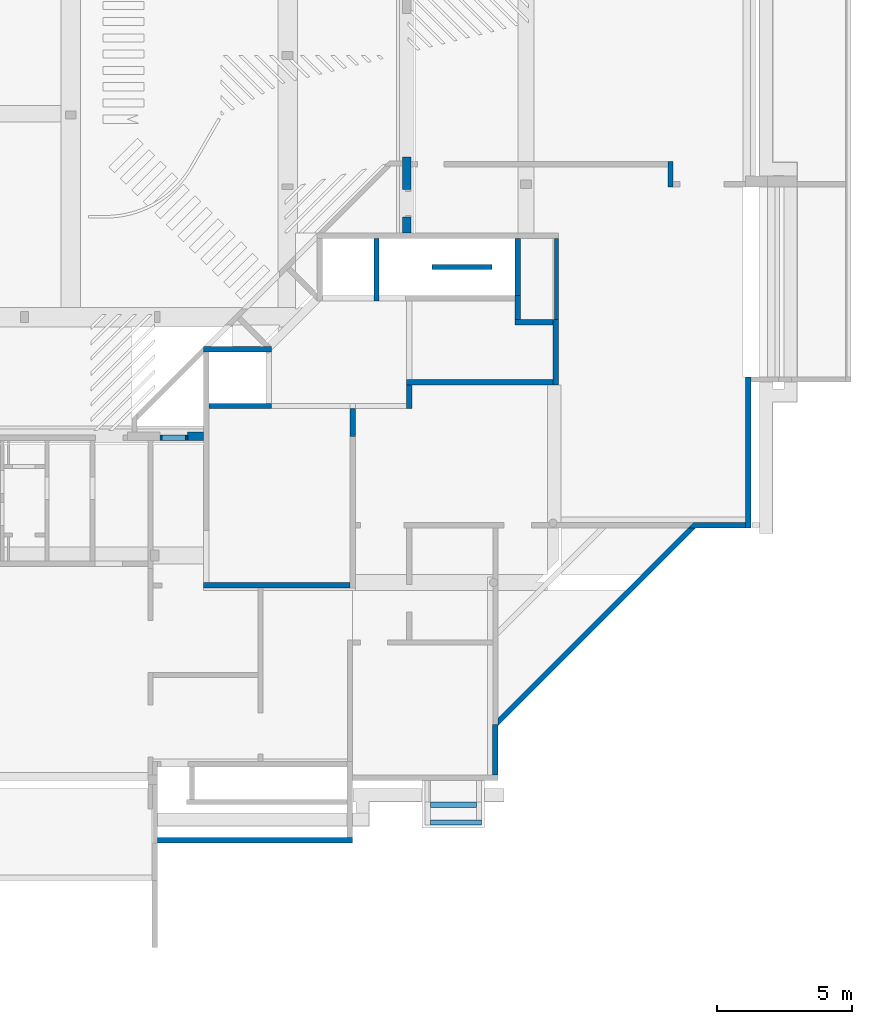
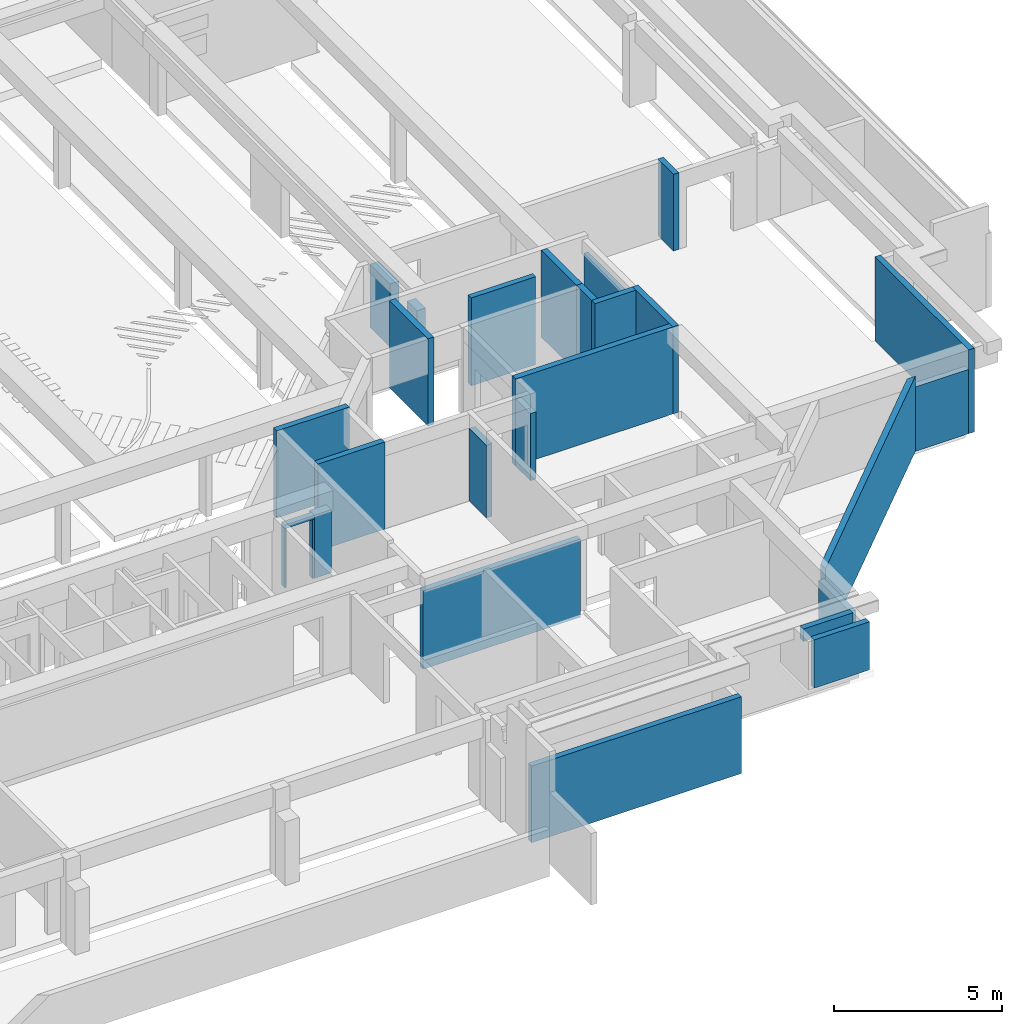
# One storey, part 8 of 22: 27 walls.
"""IFC4X3_ADD2 building model written with IfcOpenShell, lengths in millimetres."""

from ifc_helpers import new_model, si_unit, direction, frame, frame_2d, origin_with_axes, origin_2d_with_axis, place, context, subcontext, project, spatial, polyline, rectangle, outline, extrude, material, type_object, element, save


model = new_model("IFC4X3_ADD2")

# Units and contexts
model_context = context("Model", 3, precision=1e-05, world=origin_with_axes(), true_north=direction((0.0, 1.0)))
body_context = subcontext(model_context, "Body", "Model", "MODEL_VIEW")
ifc_project = project(units=[si_unit("LENGTHUNIT", "METRE", prefix="MILLI"), si_unit("AREAUNIT", "SQUARE_METRE"), si_unit("VOLUMEUNIT", "CUBIC_METRE"), si_unit("PLANEANGLEUNIT", "RADIAN"), si_unit("TIMEUNIT", "SECOND"), si_unit("MASSUNIT", "GRAM")], contexts=[model_context])

# Site, building, storey
site_placement = place(None, origin_with_axes())
site = spatial("IfcSite", under=ifc_project, at=site_placement, Name="Site", CompositionType="ELEMENT")
building_placement = place(site_placement, origin_with_axes())
building = spatial("IfcBuilding", under=site, at=building_placement, Name="IFC Building Story")
storey_placement = place(building_placement, frame((0.0, 0.0, -3240.0), z_axis=(0.0, 0.0, 1.0), x_axis=(1.0, 0.0, 0.0)))
storey = spatial("IfcBuildingStorey", under=building, at=storey_placement, Name="K10", Elevation=-3240.0)

# Walls
ifc_material_1 = material(Name="BB_Beton_Bestaand")
wall_type_1 = type_object("IfcWallType", Name="BB_Beton_Bestaand 200", PredefinedType="NOTDEFINED", material=ifc_material_1)
wall_1_placement = place(storey_placement, origin_with_axes())
element("IfcWall", 1, at=wall_1_placement, inside=storey, type_object=wall_type_1, Name="Basic Wall:BB_XX_Wand uit beton, 200 mm", ObjectType="Basic Wall:BB_XX_Wand uit beton, 200 mm", PredefinedType="SOLIDWALL", context=body_context, shape_type="SweptSolid", body=[
    extrude(rectangle(XDim=7205.0, YDim=200.0, at=origin_2d_with_axis()), frame((-18202.5, -2305.0, -200.0), z_axis=(0.0, 0.0, 1.0), x_axis=(1.0, 0.0, 0.0)), (0.0, 0.0, 1.0), 2780.0),
])
wall_2_placement = place(storey_placement, origin_with_axes())
element("IfcWall", 2, at=wall_2_placement, inside=storey, type_object=wall_type_1, Name="Basic Wall:BB_XX_Wand uit beton, 200 mm", ObjectType="Basic Wall:BB_XX_Wand uit beton, 200 mm", PredefinedType="SOLIDWALL", context=body_context, shape_type="SweptSolid", body=[
    extrude(rectangle(XDim=1872.40981921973, YDim=200.0, at=frame_2d((0.0, 0.0), x_axis=(0.0, 1.0))), frame((-9335.0, 1031.204909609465, 0.0), z_axis=(0.0, 0.0, 1.0), x_axis=(1.0, 0.0, 0.0)), (0.0, 0.0, 1.0), 2340.0),
])
wall_3_placement = place(storey_placement, origin_with_axes())
element("IfcWall", 3, at=wall_3_placement, inside=storey, type_object=wall_type_1, Name="Basic Wall:BB_XX_Wand uit beton, 200 mm", ObjectType="Basic Wall:BB_XX_Wand uit beton, 200 mm", PredefinedType="SOLIDWALL", context=body_context, shape_type="SweptSolid", body=[
    extrude(rectangle(XDim=5580.00000000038, YDim=200.0, at=frame_2d((0.0, 0.0), x_axis=(0.0, 1.0))), frame((5.0, 12004.99999999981, 0.0), z_axis=(0.0, 0.0, 1.0), x_axis=(1.0, 0.0, 0.0)), (0.0, 0.0, 1.0), 3040.0),
])
wall_4_placement = place(storey_placement, origin_with_axes())
element("IfcWall", 4, at=wall_4_placement, inside=storey, type_object=wall_type_1, Name="Basic Wall:BB_XX_Wand uit beton, 200 mm", ObjectType="Basic Wall:BB_XX_Wand uit beton, 200 mm", PredefinedType="SOLIDWALL", context=body_context, shape_type="SweptSolid", body=[
    extrude(outline(polyline([(-906.9155877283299, 100.0), (1006.91558772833, 100.0), (1006.91558772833, -100.0000000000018), (-1106.91558772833, -100.0), (-906.9155877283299, 100.0)])), frame((-1101.91558772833, 9315.0, 0.0), z_axis=(0.0, 0.0, 1.0), x_axis=(1.0, 0.0, 0.0)), (0.0, 0.0, 1.0), 2340.0),
])
wall_5_placement = place(storey_placement, origin_with_axes())
element("IfcWall", 5, at=wall_5_placement, inside=storey, type_object=wall_type_1, Name="Basic Wall:BB_XX_Wand uit beton, 200 mm", ObjectType="Basic Wall:BB_XX_Wand uit beton, 200 mm", PredefinedType="SOLIDWALL", context=body_context, shape_type="SweptSolid", body=[
    extrude(rectangle(XDim=2399.99999999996, YDim=199.9999999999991, at=frame_2d((0.0, 0.0), x_axis=(0.0, 1.0))), frame((-7100.0, 15699.99999999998, 0.0), z_axis=(0.0, 0.0, 1.0), x_axis=(1.0, 0.0, 0.0)), (0.0, 0.0, 1.0), 3160.0),
])
wall_6_placement = place(storey_placement, origin_with_axes())
element("IfcWall", 6, at=wall_6_placement, inside=storey, type_object=wall_type_1, Name="Basic Wall:BB_XX_Wand uit beton, 200 mm", ObjectType="Basic Wall:BB_XX_Wand uit beton, 200 mm", PredefinedType="SOLIDWALL", context=body_context, shape_type="SweptSolid", body=[
    extrude(rectangle(XDim=1399.99999999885, YDim=200.0, at=origin_2d_with_axis()), frame((-7899.999999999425, 16800.0, 0.0), z_axis=(0.0, 0.0, 1.0), x_axis=(1.0, 0.0, 0.0)), (0.0, 0.0, 1.0), 3160.0),
])
wall_7_placement = place(storey_placement, origin_with_axes())
element("IfcWall", 7, at=wall_7_placement, inside=storey, type_object=wall_type_1, Name="Basic Wall:BB_XX_Wand uit beton, 200 mm", ObjectType="Basic Wall:BB_XX_Wand uit beton, 200 mm", PredefinedType="SOLIDWALL", context=body_context, shape_type="SweptSolid", body=[
    extrude(rectangle(XDim=899.9999999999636, YDim=200.0, at=frame_2d((0.0, 0.0), x_axis=(0.0, 1.0))), frame((-8500.0, 17349.99999999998, 0.0), z_axis=(0.0, 0.0, 1.0), x_axis=(1.0, 0.0, 0.0)), (0.0, 0.0, 1.0), 3160.0),
])
wall_8_placement = place(storey_placement, origin_with_axes())
element("IfcWall", 8, at=wall_8_placement, inside=storey, type_object=wall_type_1, Name="Basic Wall:BB_XX_Wand uit beton, 200 mm", ObjectType="Basic Wall:BB_XX_Wand uit beton, 200 mm", PredefinedType="SOLIDWALL", context=body_context, shape_type="SweptSolid", body=[
    extrude(rectangle(XDim=5399.999999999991, YDim=199.9999999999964, at=origin_2d_with_axis()), frame((-9899.999999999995, 14600.0, 0.0), z_axis=(0.0, 0.0, 1.0), x_axis=(1.0, 0.0, 0.0)), (0.0, 0.0, 1.0), 3160.0),
])
wall_9_placement = place(storey_placement, origin_with_axes())
element("IfcWall", 9, at=wall_9_placement, inside=storey, type_object=wall_type_1, Name="Basic Wall:BB_XX_Wand uit beton, 200 mm", ObjectType="Basic Wall:BB_XX_Wand uit beton, 200 mm", PredefinedType="SOLIDWALL", context=body_context, shape_type="SweptSolid", body=[
    extrude(rectangle(XDim=2499.999999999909, YDim=199.9999999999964, at=origin_2d_with_axis()), frame((-18850.00000000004, 15815.0, 0.0), z_axis=(0.0, 0.0, 1.0), x_axis=(1.0, 0.0, 0.0)), (0.0, 0.0, 1.0), 3160.0),
])
wall_10_placement = place(storey_placement, origin_with_axes())
element("IfcWall", 10, at=wall_10_placement, inside=storey, type_object=wall_type_1, Name="Basic Wall:BB_XX_Wand uit beton, 200 mm", ObjectType="Basic Wall:BB_XX_Wand uit beton, 200 mm", PredefinedType="SOLIDWALL", context=body_context, shape_type="SweptSolid", body=[
    extrude(rectangle(XDim=2300.00000000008, YDim=199.9999999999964, at=origin_2d_with_axis()), frame((-18749.99999999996, 13715.0, 0.0), z_axis=(0.0, 0.0, 1.0), x_axis=(1.0, 0.0, 0.0)), (0.0, 0.0, 1.0), 3160.0),
])
wall_11_placement = place(storey_placement, origin_with_axes())
element("IfcWall", 11, at=wall_11_placement, inside=storey, type_object=wall_type_1, Name="Basic Wall:BB_XX_Wand uit beton, 200 mm", ObjectType="Basic Wall:BB_XX_Wand uit beton, 200 mm", PredefinedType="SOLIDWALL", context=body_context, shape_type="SweptSolid", body=[
    extrude(rectangle(XDim=5399.999999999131, YDim=200.0, at=origin_2d_with_axis()), frame((-17399.99999999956, 7100.0, -200.0), z_axis=(0.0, 0.0, 1.0), x_axis=(1.0, 0.0, 0.0)), (0.0, 0.0, 1.0), 2840.0),
])
wall_12_placement = place(storey_placement, origin_with_axes())
element("IfcWall", 12, at=wall_12_placement, inside=storey, type_object=wall_type_1, Name="Basic Wall:BB_XX_Wand uit beton, 200 mm", ObjectType="Basic Wall:BB_XX_Wand uit beton, 200 mm", PredefinedType="SOLIDWALL", context=body_context, shape_type="SweptSolid", body=[
    extrude(rectangle(XDim=2099.999999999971, YDim=200.0, at=frame_2d((0.0, 0.0), x_axis=(0.0, 1.0))), frame((-8500.0, 18850.00000000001, 0.0), z_axis=(0.0, 0.0, 1.0), x_axis=(1.0, 0.0, 0.0)), (0.0, 0.0, 1.0), 3160.0),
])
wall_13_placement = place(storey_placement, origin_with_axes())
element("IfcWall", 13, at=wall_13_placement, inside=storey, type_object=wall_type_1, Name="Basic Wall:BB_XX_Wand uit beton, 200 mm", ObjectType="Basic Wall:BB_XX_Wand uit beton, 200 mm", PredefinedType="SOLIDWALL", context=body_context, shape_type="SweptSolid", body=[
    extrude(rectangle(XDim=2299.999999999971, YDim=199.9999999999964, at=frame_2d((0.0, 0.0), x_axis=(0.0, 1.0))), frame((-13715.0, 18750.00000000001, 0.0), z_axis=(0.0, 0.0, 1.0), x_axis=(1.0, 0.0, 0.0)), (0.0, 0.0, 1.0), 3160.0),
])
wall_14_placement = place(storey_placement, origin_with_axes())
element("IfcWall", 14, at=wall_14_placement, inside=storey, type_object=wall_type_1, Name="Basic Wall:BB_XX_Wand uit beton, 200 mm", ObjectType="Basic Wall:BB_XX_Wand uit beton, 200 mm", PredefinedType="SOLIDWALL", context=body_context, shape_type="SweptSolid", body=[
    extrude(outline(polyline([(-3578.79509039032, -3437.373734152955), (3437.37373415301, 3578.795090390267), (3720.216446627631, 3578.795090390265), (-3578.795090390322, -3720.216446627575), (-3578.79509039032, -3437.373734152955)])), frame((-5646.204909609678, 5636.204909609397, 0.0), z_axis=(0.0, 0.0, 1.0), x_axis=(1.0, 0.0, 0.0)), (0.0, 0.0, 1.0), 2729.94065254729),
])
wall_15_placement = place(storey_placement, origin_with_axes())
element("IfcWall", 15, at=wall_15_placement, inside=storey, type_object=wall_type_1, Name="Basic Wall:BB_XX_Wand uit beton, 200 mm", ObjectType="Basic Wall:BB_XX_Wand uit beton, 200 mm", PredefinedType="SOLIDWALL", context=body_context, shape_type="SweptSolid", body=[
    extrude(rectangle(XDim=1900.0, YDim=200.0, at=origin_2d_with_axis()), frame((-10782.0, -1655.01699778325, 1490.0), z_axis=(0.0, 0.0, 1.0), x_axis=(1.0, 0.0, 0.0)), (0.0, 0.0, 1.0), 1750.0),
])
wall_16_placement = place(storey_placement, origin_with_axes())
element("IfcWall", 16, at=wall_16_placement, inside=storey, type_object=wall_type_1, Name="Basic Wall:BB_XX_Wand uit beton, 200 mm", ObjectType="Basic Wall:BB_XX_Wand uit beton, 200 mm", PredefinedType="SOLIDWALL", context=body_context, shape_type="SweptSolid", body=[
    extrude(rectangle(XDim=1700.0, YDim=200.0, at=origin_2d_with_axis()), frame((-10882.0, -1005.01699778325, 2789.99923706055), z_axis=(0.0, 0.0, 1.0), x_axis=(1.0, 0.0, 0.0)), (0.0, 0.0, 1.0), 450.000762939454),
])
wall_type_2 = type_object("IfcWallType", Name="BB_Beton_Bestaand 300", PredefinedType="NOTDEFINED", material=ifc_material_1)
wall_17_placement = place(storey_placement, origin_with_axes())
element("IfcWall", 17, at=wall_17_placement, inside=storey, type_object=wall_type_2, Name="Basic Wall:BB_XX_Wand uit beton, 300 mm", ObjectType="Basic Wall:BB_XX_Wand uit beton, 300 mm", PredefinedType="SOLIDWALL", context=body_context, shape_type="SweptSolid", body=[
    extrude(rectangle(XDim=590.0000000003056, YDim=300.0000000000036, at=origin_2d_with_axis()), frame((-20395.00000000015, 12600.0, 0.0), z_axis=(0.0, 0.0, 1.0), x_axis=(1.0, 0.0, 0.0)), (0.0, 0.0, 1.0), 2290.0),
])
wall_18_placement = place(storey_placement, origin_with_axes())
element("IfcWall", 18, at=wall_18_placement, inside=storey, type_object=wall_type_2, Name="Basic Wall:BB_XX_Wand uit beton, 300 mm", ObjectType="Basic Wall:BB_XX_Wand uit beton, 300 mm", PredefinedType="SOLIDWALL", context=body_context, shape_type="SweptSolid", body=[
    extrude(rectangle(XDim=1200.0, YDim=300.0000000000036, at=frame_2d((0.0, 0.0), x_axis=(0.0, 1.0))), frame((-12600.0, 22300.0, 0.0), z_axis=(0.0, 0.0, 1.0), x_axis=(1.0, 0.0, 0.0)), (0.0, 0.0, 1.0), 2290.0),
])
wall_19_placement = place(storey_placement, origin_with_axes())
element("IfcWall", 19, at=wall_19_placement, inside=storey, type_object=wall_type_2, Name="Basic Wall:BB_XX_Wand uit beton, 300 mm", ObjectType="Basic Wall:BB_XX_Wand uit beton, 300 mm", PredefinedType="SOLIDWALL", context=body_context, shape_type="SweptSolid", body=[
    extrude(rectangle(XDim=590.0, YDim=300.0000000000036, at=frame_2d((0.0, 0.0), x_axis=(0.0, 1.0))), frame((-12600.0, 20394.99999999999, 0.0), z_axis=(0.0, 0.0, 1.0), x_axis=(1.0, 0.0, 0.0)), (0.0, 0.0, 1.0), 2290.0),
])
ifc_material_2 = material(Name="BB_Metselwerk_Bestaand")
wall_type_3 = type_object("IfcWallType", Name="BB_Metselwerk_Bestaand 140", PredefinedType="NOTDEFINED", material=ifc_material_2)
wall_20_placement = place(storey_placement, origin_with_axes())
element("IfcWall", 20, at=wall_20_placement, inside=storey, type_object=wall_type_3, Name="Basic Wall:BB_XX_Wand uit metselwerk, 190 mm", ObjectType="Basic Wall:BB_XX_Wand uit metselwerk, 190 mm", PredefinedType="SOLIDWALL", context=body_context, shape_type="SweptSolid", body=[
    extrude(rectangle(XDim=1010.000000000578, YDim=190.0, at=origin_2d_with_axis()), frame((-21195.00000000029, 12545.0, 2150.0), z_axis=(0.0, 0.0, 1.0), x_axis=(1.0, 0.0, 0.0)), (0.0, 0.0, 1.0), 140.0),
])
wall_type_4 = type_object("IfcWallType", Name="BB_Metselwerk_Bestaand 190", PredefinedType="NOTDEFINED", material=ifc_material_2)
wall_21_placement = place(storey_placement, origin_with_axes())
element("IfcWall", 21, at=wall_21_placement, inside=storey, type_object=wall_type_4, Name="Basic Wall:BB_XX_Wand uit metselwerk, 190 mm", ObjectType="Basic Wall:BB_XX_Wand uit metselwerk, 190 mm", PredefinedType="SOLIDWALL", context=body_context, shape_type="SweptSolid", body=[
    extrude(rectangle(XDim=885.0000000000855, YDim=190.0, at=frame_2d((0.0, 0.0), x_axis=(0.0, 1.0))), frame((-12505.0, 14057.50000000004, 0.0), z_axis=(0.0, 0.0, 1.0), x_axis=(1.0, 0.0, 0.0)), (0.0, 0.0, 1.0), 2440.0),
])
wall_22_placement = place(storey_placement, origin_with_axes())
element("IfcWall", 22, at=wall_22_placement, inside=storey, type_object=wall_type_4, Name="Basic Wall:BB_XX_Wand uit metselwerk, 190 mm", ObjectType="Basic Wall:BB_XX_Wand uit metselwerk, 190 mm", PredefinedType="SOLIDWALL", context=body_context, shape_type="SweptSolid", body=[
    extrude(rectangle(XDim=2210.00000000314, YDim=190.0, at=origin_2d_with_axis()), frame((-10554.99999999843, 18850.0, 0.0), z_axis=(0.0, 0.0, 1.0), x_axis=(1.0, 0.0, 0.0)), (0.0, 0.0, 1.0), 3190.0),
])
ifc_material_3 = material(Name="BB_Metselwerk_Betonsteen")
wall_type_5 = type_object("IfcWallType", Name="BB_Metselwerk_Betonsteen 190", PredefinedType="NOTDEFINED", material=ifc_material_3)
wall_23_placement = place(storey_placement, origin_with_axes())
element("IfcWall", 23, at=wall_23_placement, inside=storey, type_object=wall_type_5, Name="Basic Wall:BB_03.09.24#05_Wand uit metselwerk_EI60, 190 mm", ObjectType="Basic Wall:BB_03.09.24#05_Wand uit metselwerk_EI60, 190 mm", PredefinedType="SOLIDWALL", context=body_context, shape_type="SweptSolid", body=[
    extrude(rectangle(XDim=924.999999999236, YDim=190.0, at=frame_2d((0.0, 0.0), x_axis=(0.0, 1.0))), frame((-2865.0, 22267.50000000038, 0.0), z_axis=(0.0, 0.0, 1.0), x_axis=(1.0, 0.0, 0.0)), (0.0, 0.0, 1.0), 2780.0),
])
wall_type_6 = type_object("IfcWallType", Name="BB_Metselwerk_Bestaand 200", PredefinedType="NOTDEFINED", material=ifc_material_2)
wall_24_placement = place(storey_placement, origin_with_axes())
element("IfcWall", 24, at=wall_24_placement, inside=storey, type_object=wall_type_6, Name="Basic Wall:BB_XX_Wand uit metselwerk, 200 mm", ObjectType="Basic Wall:BB_XX_Wand uit metselwerk, 200 mm", PredefinedType="SOLIDWALL", context=body_context, shape_type="SweptSolid", body=[
    extrude(rectangle(XDim=1014.999999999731, YDim=199.9999999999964, at=frame_2d((0.0, 0.0), x_axis=(0.0, 1.0))), frame((-14600.0, 13107.50000000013, 0.0), z_axis=(0.0, 0.0, 1.0), x_axis=(1.0, 0.0, 0.0)), (0.0, 0.0, 1.0), 2640.0),
])
wall_type_7 = type_object("IfcWallType", Name="BB_Metselwerk_Betonsteen 60", PredefinedType="NOTDEFINED", material=ifc_material_3)
wall_25_placement = place(storey_placement, origin_with_axes())
element("IfcWall", 25, at=wall_25_placement, inside=storey, type_object=wall_type_7, Name="Basic Wall:BB_03.09.24#05_Wand uit metselwerk_EI60, 190 mm", ObjectType="Basic Wall:BB_03.09.24#05_Wand uit metselwerk_EI60, 190 mm", PredefinedType="SOLIDWALL", context=body_context, shape_type="SweptSolid", body=[
    extrude(rectangle(XDim=190.0, YDim=60.00000000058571, at=frame_2d((0.0, 0.0), x_axis=(0.0, 1.0))), frame((-21670.00000000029, 12545.0, 0.0), z_axis=(0.0, 0.0, 1.0), x_axis=(1.0, 0.0, 0.0)), (0.0, 0.0, 1.0), 2150.0),
])
wall_26_placement = place(storey_placement, origin_with_axes())
element("IfcWall", 26, at=wall_26_placement, inside=storey, type_object=wall_type_7, Name="Basic Wall:BB_03.09.24#05_Wand uit metselwerk_EI60, 190 mm", ObjectType="Basic Wall:BB_03.09.24#05_Wand uit metselwerk_EI60, 190 mm", PredefinedType="SOLIDWALL", context=body_context, shape_type="SweptSolid", body=[
    extrude(rectangle(XDim=190.0, YDim=59.99999999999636, at=frame_2d((0.0, 0.0), x_axis=(0.0, 1.0))), frame((-20720.0, 12545.0, 0.0), z_axis=(0.0, 0.0, 1.0), x_axis=(1.0, 0.0, 0.0)), (0.0, 0.0, 1.0), 2150.0),
])
wall_type_8 = type_object("IfcWallType", Name="BB_Metselwerk_Betonsteen 140", PredefinedType="NOTDEFINED", material=ifc_material_3)
wall_27_placement = place(storey_placement, origin_with_axes())
element("IfcWall", 27, at=wall_27_placement, inside=storey, type_object=wall_type_8, Name="Basic Wall:BB_03.09.24#02_Wand uit metselwerk_EI60_43dB, 140 mm", ObjectType="Basic Wall:BB_03.09.24#02_Wand uit metselwerk_EI60_43dB, 140 mm", PredefinedType="SOLIDWALL", context=body_context, shape_type="SweptSolid", body=[
    extrude(rectangle(XDim=3000.0, YDim=140.0, at=frame_2d((0.0, 0.0), x_axis=(0.0, 1.0))), frame((-7070.0, 18399.7208049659, 0.0), z_axis=(0.0, 0.0, 1.0), x_axis=(1.0, 0.0, 0.0)), (0.0, 0.0, 1.0), 2540.0),
])

save(model, "model.ifc")
